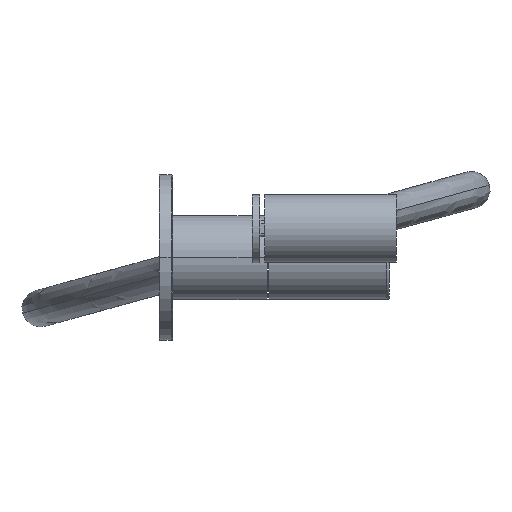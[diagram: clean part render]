
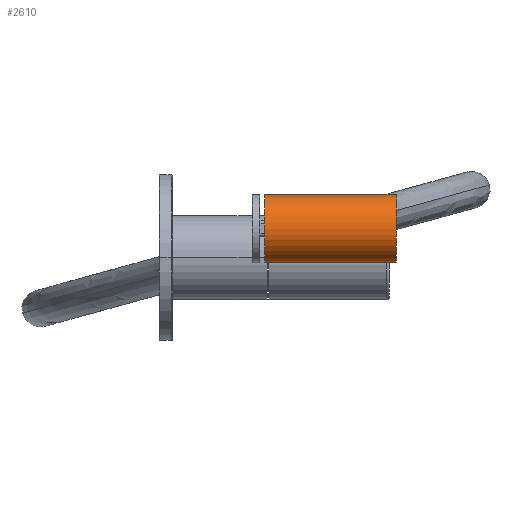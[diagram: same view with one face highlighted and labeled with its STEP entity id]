
A CAD part, front view. The second image highlights one B-rep face of the part: STEP entity #2610.
In plain terms, the highlighted cylindrical face has radius 13 mm (diameter 26 mm), a partial arc.
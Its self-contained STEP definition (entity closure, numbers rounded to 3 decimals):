
#731=DIRECTION('',(1.,0.,0.));
#732=VECTOR('',#731,50.);
#733=CARTESIAN_POINT('',(40.,-101.,-2.));
#734=LINE('',#733,#732);
#735=CARTESIAN_POINT('',(40.,-101.,11.));
#736=DIRECTION('',(1.,0.,0.));
#737=DIRECTION('',(0.,0.,1.));
#738=AXIS2_PLACEMENT_3D('',#735,#736,#737);
#761=DIRECTION('',(1.,0.,0.));
#762=VECTOR('',#761,50.);
#763=CARTESIAN_POINT('',(40.,-101.,24.));
#764=LINE('',#763,#762);
#765=CARTESIAN_POINT('',(90.,-101.,11.));
#766=DIRECTION('',(1.,0.,0.));
#767=DIRECTION('',(0.,0.,1.));
#768=AXIS2_PLACEMENT_3D('',#765,#766,#767);
#1174=CARTESIAN_POINT('',(40.,-101.,24.));
#1175=CARTESIAN_POINT('',(40.,-101.,-2.));
#1176=VERTEX_POINT('',#1174);
#1177=VERTEX_POINT('',#1175);
#1178=CARTESIAN_POINT('',(90.,-101.,24.));
#1179=CARTESIAN_POINT('',(90.,-101.,-2.));
#1180=VERTEX_POINT('',#1178);
#1181=VERTEX_POINT('',#1179);
#2598=CARTESIAN_POINT('',(40.,-101.,11.));
#2599=DIRECTION('',(1.,0.,0.));
#2600=DIRECTION('',(0.,0.,1.));
#2601=AXIS2_PLACEMENT_3D('',#2598,#2599,#2600);
#2602=CYLINDRICAL_SURFACE('',#2601,13.);
#2603=ORIENTED_EDGE('',*,*,#2574,.F.);
#2604=ORIENTED_EDGE('',*,*,#2559,.T.);
#2606=ORIENTED_EDGE('',*,*,#2605,.T.);
#2607=ORIENTED_EDGE('',*,*,#2555,.F.);
#2608=EDGE_LOOP('',(#2603,#2604,#2606,#2607));
#2609=FACE_OUTER_BOUND('',#2608,.F.);
#2610=ADVANCED_FACE('',(#2609),#2602,.T.);
#739=CIRCLE('',#738,13.);
#769=CIRCLE('',#768,13.);
#2555=EDGE_CURVE('',#1177,#1181,#734,.T.);
#2559=EDGE_CURVE('',#1176,#1180,#764,.T.);
#2574=EDGE_CURVE('',#1176,#1177,#739,.T.);
#2605=EDGE_CURVE('',#1180,#1181,#769,.T.);
